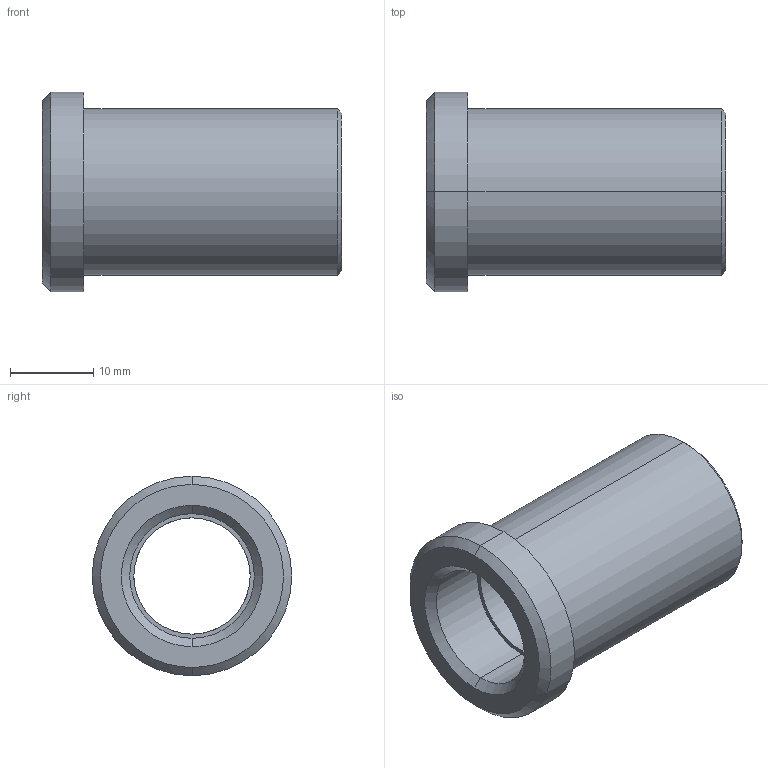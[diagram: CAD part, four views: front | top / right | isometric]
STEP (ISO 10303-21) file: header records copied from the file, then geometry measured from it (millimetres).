
FILE_DESCRIPTION(('CATIA V5 STEP Exchange'),'2;1');
FILE_NAME('C:\Users\Utente\Desktop\IO LAVORO\3D X SITO CF\X SITO\PLASTICA\353\353-14X36.stp','2021-04-21T12:17:22+00:00',('none'),('none'),'CATIA Version 5 Release 20 GA (IN-10)','CATIA V5 STEP AP203','none');
FILE_SCHEMA(('CONFIG_CONTROL_DESIGN'));
Length unit declared in the file: millimetre
Products named in the file (1): 353-14X36
Bounding box: 36 x 24 x 24 mm (x, y, z)
Volume: 6198.2 mm3; surface area: 4421.2 mm2
Topology: 1 solids, 1 shells, 20 faces, 64 edges, 48 vertices
Faces by surface type: cylinder 8, cone 6, plane 4, torus 2
Entity records: 906 total; most frequent: CARTESIAN_POINT 301, ORIENTED_EDGE 128, DIRECTION 92, EDGE_CURVE 64, AXIS2_PLACEMENT_3D 59, VERTEX_POINT 48, CIRCLE 38, EDGE_LOOP 24
